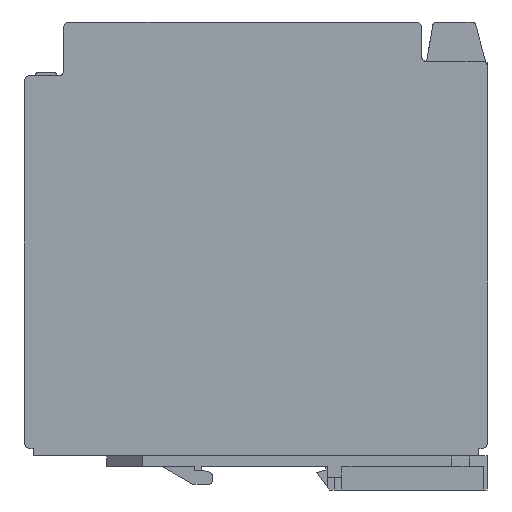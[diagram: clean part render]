
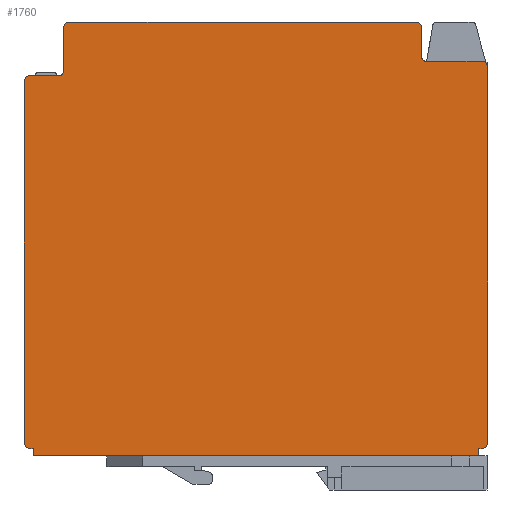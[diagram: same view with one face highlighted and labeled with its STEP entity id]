
A CAD part, left-side view. The second image highlights one B-rep face of the part: STEP entity #1760.
In plain terms, the highlighted planar face has unit normal (-1, 0, 0) as drawn and (1, 0, 0) by its records, which use the part's own axes.
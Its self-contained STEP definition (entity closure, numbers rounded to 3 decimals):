
#10=CARTESIAN_POINT('',(32.,0.,-62.325));
#20=DIRECTION('',(1.,0.,0.));
#30=DIRECTION('',(0.,-1.,0.));
#40=AXIS2_PLACEMENT_3D('',#10,#20,#30);
#50=PLANE('',#40);
#60=CARTESIAN_POINT('',(32.,52.4,-122.15));
#70=DIRECTION('',(0.,-1.,0.));
#80=VECTOR('',#70,1.);
#90=LINE('',#60,#80);
#100=CARTESIAN_POINT('',(32.,52.4,-122.15));
#110=VERTEX_POINT('',#100);
#120=CARTESIAN_POINT('',(32.,-44.9,-122.15));
#130=VERTEX_POINT('',#120);
#140=EDGE_CURVE('',#110,#130,#90,.T.);
#150=ORIENTED_EDGE('',*,*,#140,.F.);
#160=CARTESIAN_POINT('',(32.,-44.9,-120.35));
#170=DIRECTION('',(1.,0.,0.));
#180=DIRECTION('',(0.,-1.,0.));
#190=AXIS2_PLACEMENT_3D('',#160,#170,#180);
#200=CIRCLE('',#190,1.8);
#210=CARTESIAN_POINT('',(32.,-46.7,-120.35));
#220=VERTEX_POINT('',#210);
#230=EDGE_CURVE('',#220,#130,#200,.T.);
#240=ORIENTED_EDGE('',*,*,#230,.T.);
#250=CARTESIAN_POINT('',(32.,-46.7,-120.35));
#260=DIRECTION('',(0.,0.,1.));
#270=VECTOR('',#260,1.);
#280=LINE('',#250,#270);
#290=CARTESIAN_POINT('',(32.,-46.7,-112.15));
#300=VERTEX_POINT('',#290);
#310=EDGE_CURVE('',#220,#300,#280,.T.);
#320=ORIENTED_EDGE('',*,*,#310,.F.);
#330=CARTESIAN_POINT('',(32.,-47.7,-112.15));
#340=DIRECTION('',(-1.,0.,0.));
#350=DIRECTION('',(0.,-0.,1.));
#360=AXIS2_PLACEMENT_3D('',#330,#340,#350);
#370=CIRCLE('',#360,1.);
#380=CARTESIAN_POINT('',(32.,-47.7,-111.15));
#390=VERTEX_POINT('',#380);
#400=EDGE_CURVE('',#390,#300,#370,.T.);
#410=ORIENTED_EDGE('',*,*,#400,.T.);
#420=CARTESIAN_POINT('',(32.,-47.7,-111.15));
#430=DIRECTION('',(0.,-1.,0.));
#440=VECTOR('',#430,1.);
#450=LINE('',#420,#440);
#460=CARTESIAN_POINT('',(32.,-63.4,-111.15));
#470=VERTEX_POINT('',#460);
#480=EDGE_CURVE('',#390,#470,#450,.T.);
#490=ORIENTED_EDGE('',*,*,#480,.F.);
#500=CARTESIAN_POINT('',(32.,-63.4,-109.35));
#510=DIRECTION('',(1.,0.,0.));
#520=DIRECTION('',(0.,-1.,0.));
#530=AXIS2_PLACEMENT_3D('',#500,#510,#520);
#540=CIRCLE('',#530,1.8);
#550=CARTESIAN_POINT('',(32.,-65.2,-109.35));
#560=VERTEX_POINT('',#550);
#570=EDGE_CURVE('',#560,#470,#540,.T.);
#580=ORIENTED_EDGE('',*,*,#570,.T.);
#590=CARTESIAN_POINT('',(32.,-65.2,-109.35));
#600=DIRECTION('',(0.,0.,1.));
#610=VECTOR('',#600,1.);
#620=LINE('',#590,#610);
#630=CARTESIAN_POINT('',(32.,-65.2,-3.8));
#640=VERTEX_POINT('',#630);
#650=EDGE_CURVE('',#560,#640,#620,.T.);
#660=ORIENTED_EDGE('',*,*,#650,.F.);
#670=CARTESIAN_POINT('',(32.,-63.4,-3.8));
#680=DIRECTION('',(1.,0.,0.));
#690=DIRECTION('',(0.,-0.,1.));
#700=AXIS2_PLACEMENT_3D('',#670,#680,#690);
#710=CIRCLE('',#700,1.8);
#720=CARTESIAN_POINT('',(32.,-63.4,-2.));
#730=VERTEX_POINT('',#720);
#740=EDGE_CURVE('',#730,#640,#710,.T.);
#750=ORIENTED_EDGE('',*,*,#740,.T.);
#760=CARTESIAN_POINT('',(32.,-63.4,-2.));
#770=DIRECTION('',(0.,1.,0.));
#780=VECTOR('',#770,1.);
#790=LINE('',#760,#780);
#800=CARTESIAN_POINT('',(32.,-62.7,-2.));
#810=VERTEX_POINT('',#800);
#820=EDGE_CURVE('',#730,#810,#790,.T.);
#830=ORIENTED_EDGE('',*,*,#820,.F.);
#840=CARTESIAN_POINT('',(32.,-62.7,0.));
#850=DIRECTION('',(0.,0.,1.));
#860=VECTOR('',#850,1.);
#870=LINE('',#840,#860);
#880=CARTESIAN_POINT('',(32.,-62.7,0.));
#890=VERTEX_POINT('',#880);
#900=EDGE_CURVE('',#810,#890,#870,.T.);
#910=ORIENTED_EDGE('',*,*,#900,.F.);
#920=CARTESIAN_POINT('',(32.,62.7,0.));
#930=DIRECTION('',(0.,-1.,0.));
#940=VECTOR('',#930,1.);
#950=LINE('',#920,#940);
#960=CARTESIAN_POINT('',(32.,62.7,0.));
#970=VERTEX_POINT('',#960);
#980=EDGE_CURVE('',#970,#890,#950,.T.);
#990=ORIENTED_EDGE('',*,*,#980,.T.);
#1000=CARTESIAN_POINT('',(32.,62.7,0.));
#1010=DIRECTION('',(0.,0.,-1.));
#1020=VECTOR('',#1010,1.);
#1030=LINE('',#1000,#1020);
#1040=CARTESIAN_POINT('',(32.,62.7,-2.));
#1050=VERTEX_POINT('',#1040);
#1060=EDGE_CURVE('',#970,#1050,#1030,.T.);
#1070=ORIENTED_EDGE('',*,*,#1060,.F.);
#1080=CARTESIAN_POINT('',(32.,54.7,-2.));
#1090=DIRECTION('',(0.,1.,0.));
#1100=VECTOR('',#1090,1.);
#1110=LINE('',#1080,#1100);
#1120=CARTESIAN_POINT('',(32.,63.4,-2.));
#1130=VERTEX_POINT('',#1120);
#1140=EDGE_CURVE('',#1050,#1130,#1110,.T.);
#1150=ORIENTED_EDGE('',*,*,#1140,.F.);
#1160=CARTESIAN_POINT('',(32.,63.4,-3.8));
#1170=DIRECTION('',(1.,0.,0.));
#1180=DIRECTION('',(0.,1.,0.));
#1190=AXIS2_PLACEMENT_3D('',#1160,#1170,#1180);
#1200=CIRCLE('',#1190,1.8);
#1210=CARTESIAN_POINT('',(32.,65.2,-3.8));
#1220=VERTEX_POINT('',#1210);
#1230=EDGE_CURVE('',#1220,#1130,#1200,.T.);
#1240=ORIENTED_EDGE('',*,*,#1230,.T.);
#1250=CARTESIAN_POINT('',(32.,65.2,-5.5));
#1260=DIRECTION('',(0.,0.,1.));
#1270=VECTOR('',#1260,1.);
#1280=LINE('',#1250,#1270);
#1290=CARTESIAN_POINT('',(32.,65.2,-105.35));
#1300=VERTEX_POINT('',#1290);
#1310=EDGE_CURVE('',#1300,#1220,#1280,.T.);
#1320=ORIENTED_EDGE('',*,*,#1310,.T.);
#1330=CARTESIAN_POINT('',(32.,63.4,-105.35));
#1340=DIRECTION('',(1.,0.,0.));
#1350=DIRECTION('',(0.,0.,-1.));
#1360=AXIS2_PLACEMENT_3D('',#1330,#1340,#1350);
#1370=CIRCLE('',#1360,1.8);
#1380=CARTESIAN_POINT('',(32.,63.4,-107.15));
#1390=VERTEX_POINT('',#1380);
#1400=EDGE_CURVE('',#1390,#1300,#1370,.T.);
#1410=ORIENTED_EDGE('',*,*,#1400,.T.);
#1420=CARTESIAN_POINT('',(32.,63.4,-107.15));
#1430=DIRECTION('',(0.,-1.,0.));
#1440=VECTOR('',#1430,1.);
#1450=LINE('',#1420,#1440);
#1460=CARTESIAN_POINT('',(32.,55.2,-107.15));
#1470=VERTEX_POINT('',#1460);
#1480=EDGE_CURVE('',#1390,#1470,#1450,.T.);
#1490=ORIENTED_EDGE('',*,*,#1480,.F.);
#1500=CARTESIAN_POINT('',(32.,55.2,-108.15));
#1510=DIRECTION('',(-1.,0.,0.));
#1520=DIRECTION('',(0.,-1.,0.));
#1530=AXIS2_PLACEMENT_3D('',#1500,#1510,#1520);
#1540=CIRCLE('',#1530,1.);
#1550=CARTESIAN_POINT('',(32.,54.2,-108.15));
#1560=VERTEX_POINT('',#1550);
#1570=EDGE_CURVE('',#1560,#1470,#1540,.T.);
#1580=ORIENTED_EDGE('',*,*,#1570,.T.);
#1590=CARTESIAN_POINT('',(32.,54.2,-108.15));
#1600=DIRECTION('',(0.,0.,-1.));
#1610=VECTOR('',#1600,1.);
#1620=LINE('',#1590,#1610);
#1630=CARTESIAN_POINT('',(32.,54.2,-120.35));
#1640=VERTEX_POINT('',#1630);
#1650=EDGE_CURVE('',#1560,#1640,#1620,.T.);
#1660=ORIENTED_EDGE('',*,*,#1650,.F.);
#1670=CARTESIAN_POINT('',(32.,52.4,-120.35));
#1680=DIRECTION('',(1.,0.,0.));
#1690=DIRECTION('',(0.,0.,-1.));
#1700=AXIS2_PLACEMENT_3D('',#1670,#1680,#1690);
#1710=CIRCLE('',#1700,1.8);
#1720=EDGE_CURVE('',#110,#1640,#1710,.T.);
#1730=ORIENTED_EDGE('',*,*,#1720,.T.);
#1740=EDGE_LOOP('',(#1730,#1660,#1580,#1490,#1410,#1320,#1240,#1150,
#1070,#990,#910,#830,#750,#660,#580,#490,#410,#320,#240,#150));
#1750=FACE_OUTER_BOUND('',#1740,.T.);
#1760=ADVANCED_FACE('',(#1750),#50,.T.);
